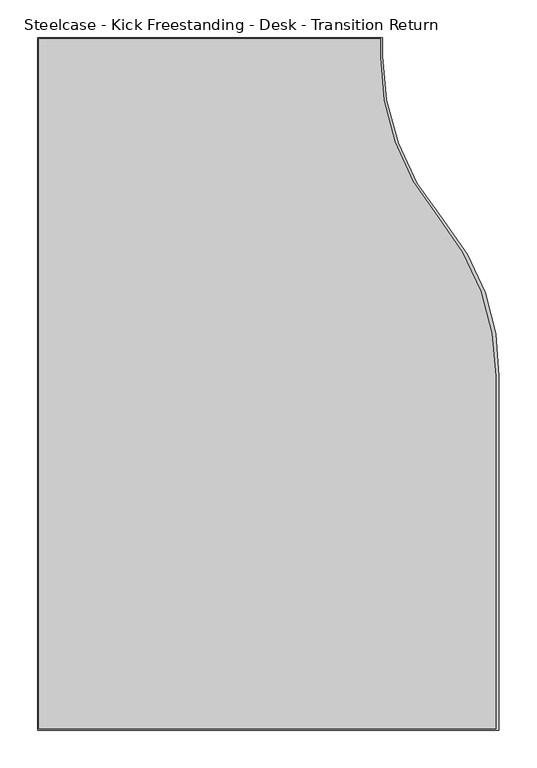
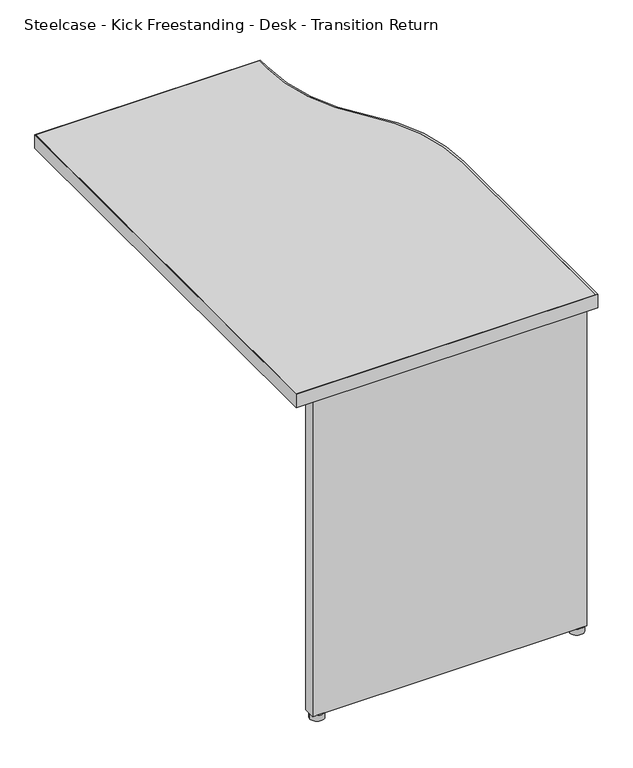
"""IFC4 building model written with IfcOpenShell, lengths in millimetres: furniture geometry, Steelcase - Kick Freestanding - Desk - Transition Return : 18D x 36W - Left."""

from ifc_helpers import new_model, si_unit, point, frame, frame_2d, origin, origin_with_axes, place, context, project, spatial, polyline, circle_curve, trimmed, segment, composite_curve, outline, extrude, source, transform, mapped, element, save


def steelcase_kick_freestanding_desk_transition_return_8a10cd56(model_context):
    return source(origin(), model_context, "Body", "SweptSolid", [
        extrude(outline(composite_curve([segment(trimmed(circle_curve(frame_2d((2220.2474425, -1436.3225152)), 13.97), [point((2206.2774425, -1436.3225152))], [point((2234.2174425, -1436.3225152))], False, "CARTESIAN"), True, "CONTINUOUS"), segment(trimmed(circle_curve(frame_2d((2220.2474425, -1436.3225152)), 13.97), [point((2234.2174425, -1436.3225152))], [point((2206.2774425, -1436.3225152))], False, "CARTESIAN"), True, "CONTINUOUS")], self_intersect=False)), origin_with_axes(), (0.0, 0.0, 1.0), 12.7),
        extrude(outline(composite_curve([segment(trimmed(circle_curve(frame_2d((2745.2654425, -1436.2400875)), 13.97), [point((2731.2954425, -1436.2400875))], [point((2759.2354425, -1436.2400875))], False, "CARTESIAN"), True, "CONTINUOUS"), segment(trimmed(circle_curve(frame_2d((2745.2654425, -1436.2400875)), 13.97), [point((2759.2354425, -1436.2400875))], [point((2731.2954425, -1436.2400875))], False, "CARTESIAN"), True, "CONTINUOUS")], self_intersect=False)), origin_with_axes(), (0.0, 0.0, 1.0), 12.7),
        extrude(outline(composite_curve([segment(polyline([(2616.8176592, -547.8051152), (2616.8176592, -572.1320079)]), True, "CONTINUOUS"), segment(trimmed(circle_curve(frame_2d((2941.6463505, -574.5942763)), 324.8380233), [point((2616.8176592, -572.1320079))], [point((2692.5587903, -783.1011797))], True, "CARTESIAN"), True, "CONTINUOUS"), segment(trimmed(circle_curve(frame_2d((2440.4841513, -994.1085152)), 328.7335079), [point((2692.5587903, -783.1011797))], [point((2769.2176592, -994.1085152))], False, "CARTESIAN"), True, "CONTINUOUS"), segment(polyline([(2769.2176592, -994.1085152), (2769.2176592, -1459.4619332), (2164.8500425, -1459.4619332), (2164.8500425, -547.8051152), (2616.8176592, -547.8051152)]), True, "CONTINUOUS")], self_intersect=False)), frame((0.0, 0.0, 694.944), z_axis=(0.0, 0.0, 1.0), x_axis=(1.0, 0.0, 0.0)), (0.0, 0.0, 1.0), 28.956),
        extrude(outline(composite_curve([segment(polyline([(2619.7894255, -546.8145152), (2619.7894255, -571.0836731)]), True, "CONTINUOUS"), segment(trimmed(circle_curve(frame_2d((2951.3460478, -571.0836731)), 331.5566223), [point((2619.7894255, -571.0836731))], [point((2699.261298, -786.4509703))], True, "CARTESIAN"), True, "CONTINUOUS"), segment(trimmed(circle_curve(frame_2d((2463.6949436, -987.7058619)), 309.8306613), [point((2699.261298, -786.4509703))], [point((2773.4594425, -994.1085152))], False, "CARTESIAN"), True, "CONTINUOUS"), segment(polyline([(2773.4594425, -994.1085152), (2773.4594425, -1461.2145152), (2163.8594425, -1461.2145152), (2163.8594425, -546.8145152), (2619.7894255, -546.8145152)]), True, "CONTINUOUS")], self_intersect=False), holes=[composite_curve([segment(polyline([(2616.8176592, -547.8051152), (2164.8500425, -547.8051152), (2164.8500425, -1459.4619332), (2769.2176592, -1459.4619332), (2769.2176592, -994.1085152)]), True, "CONTINUOUS"), segment(trimmed(circle_curve(frame_2d((2440.4841513, -994.1085152)), 328.7335079), [point((2769.2176592, -994.1085152))], [point((2692.5587903, -783.1011797))], True, "CARTESIAN"), True, "CONTINUOUS"), segment(trimmed(circle_curve(frame_2d((2941.6463505, -574.5942763)), 324.8380233), [point((2692.5587903, -783.1011797))], [point((2616.8176592, -572.1320079))], False, "CARTESIAN"), True, "CONTINUOUS"), segment(polyline([(2616.8176592, -572.1320079), (2616.8176592, -547.8051152)]), True, "CONTINUOUS")], self_intersect=False)]), frame((0.0, 0.0, 694.944), z_axis=(0.0, 0.0, 1.0), x_axis=(1.0, 0.0, 0.0)), (0.0, 0.0, 1.0), 28.956),
        extrude(outline(polyline([(2205.0074425, -1423.2669041), (2328.2736437, -1423.2669041), (2328.2736437, -1445.6951136), (2427.9940467, -1445.6951136), (2427.9940467, -1423.2669041), (2536.7314502, -1423.2669041), (2536.7314502, -1445.6951136), (2636.4518532, -1445.6951136), (2636.4518532, -1423.2669041), (2759.4894376, -1423.2669041), (2759.4894376, -1447.7525152), (2205.0074425, -1447.7525152), (2205.0074425, -1423.2669041)])), frame((0.0, 0.0, 12.7), z_axis=(0.0, 0.0, 1.0), x_axis=(1.0, 0.0, 0.0)), (0.0, 0.0, 1.0), 682.244),
    ])


if __name__ == "__main__":
    model = new_model("IFC4")
    model_context = context("Model", 3, world=origin())
    ifc_project = project(units=[si_unit("LENGTHUNIT", "METRE", prefix="MILLI")], contexts=[model_context])
    site = spatial("IfcSite", under=ifc_project)
    building = spatial("IfcBuilding", under=site)
    placement = place(None, origin())
    steelcase_kick_freestanding_desk_transition_return_shape = steelcase_kick_freestanding_desk_transition_return_8a10cd56(model_context)
    element("IfcFurniture", 1, ObjectType="Steelcase - Kick Freestanding - Desk - Transition Return : 18D x 36W - Left", at=placement, inside=building, context=model_context, shape_type="MappedRepresentation", body=[
        mapped(steelcase_kick_freestanding_desk_transition_return_shape, transform((0.0, 0.0, 0.0), x_axis=(1.0, 0.0, 0.0), y_axis=(0.0, 1.0, 0.0), z_axis=(0.0, 0.0, 1.0))),
    ])
    save(model, "model.ifc")
